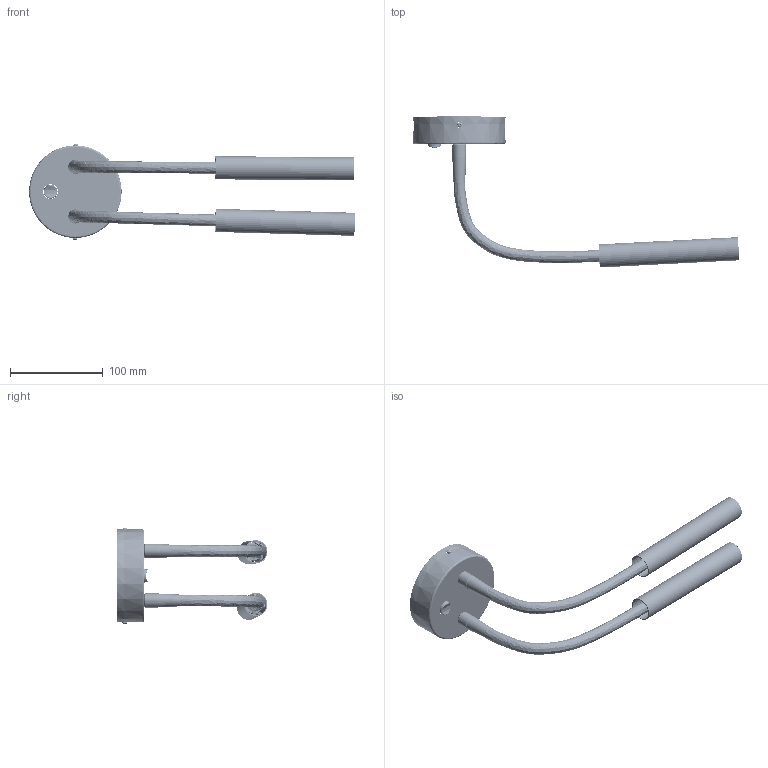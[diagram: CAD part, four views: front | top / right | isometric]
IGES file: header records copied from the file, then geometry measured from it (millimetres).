
Start section: SolidWorks IGES file using analytic representation for surfaces
Global section: file name: F:\GABRYSIA\MODELE 3D\STALACTITE_9055_ 8353_8354_WWW\STALACTITE_9055_8353_8354.IGS; native system: SolidWorks 2017; preprocessor: SolidWorks 2017; author: Togambi; date: 200707.121957; units: millimetre
Bounding box: 352.12 x 163.06 x 104.12 mm (x, y, z)
Surface area: 164962.9 mm2 (no closed solid volume)
Topology: 0 solids, 0 shells, 1985 faces, 26794 edges, 26742 vertices
Faces by surface type: revolution 1131, bspline 854
